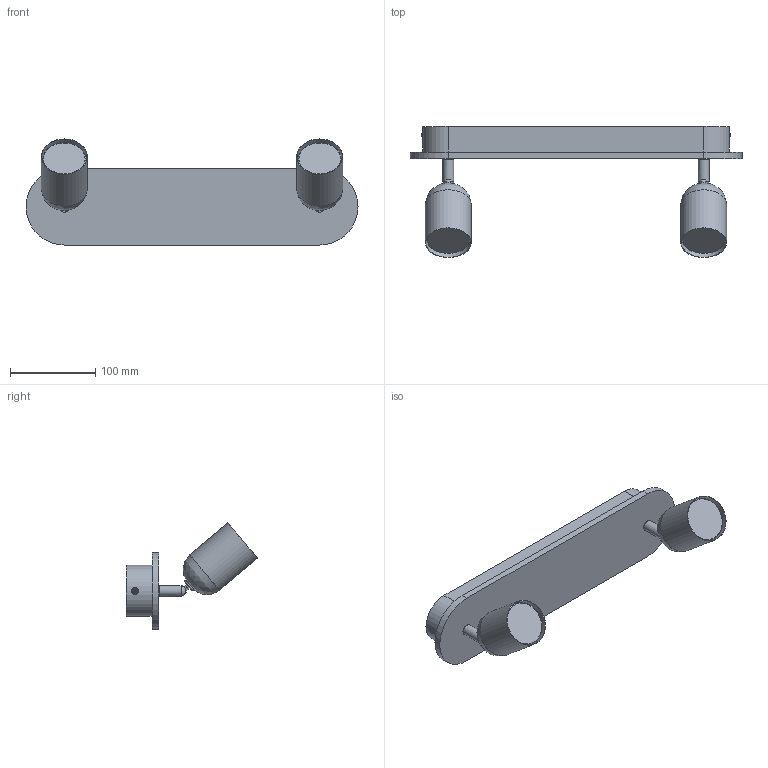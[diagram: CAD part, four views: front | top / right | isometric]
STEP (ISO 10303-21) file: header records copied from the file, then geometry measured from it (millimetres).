
FILE_DESCRIPTION(/* description */ (''),/* implementation_level */ '2;1');
FILE_NAME(/* name */ 'C:/Users/kubaw/OneDrive/Pulpit/3D/JAKUB_WIECZORKOWSKI_MAJ_PACZKA/OK/3295_TOP WOOD.step',/* time_stamp */ '2021-06-19T10:40:21+02:00',/* author */ (''),/* organization */ (''),/* preprocessor_version */ 'ST-DEVELOPER v18.1',/* originating_system */ 'Autodesk Translation Framework v10.9.0.1377',/* authorisation */ '');
FILE_SCHEMA (('AUTOMOTIVE_DESIGN { 1 0 10303 214 3 1 1 }'));
Length unit declared in the file: millimetre
Products named in the file (4): 3295_TOP WOOD; KLOSZ_TOP WOOD_B; ŚRUBA2_TOP WOOD; ŚRUBA2_TOP WOOD v2(Mirror)
Assembly tree (4 placements, depth 2):
  3295_TOP WOOD
    KLOSZ_TOP WOOD_B  x2
    ŚRUBA2_TOP WOOD
    ŚRUBA2_TOP WOOD v2(Mirror)
Bounding box: 390 x 153.9 x 124.72 mm (x, y, z)
Volume: 972270.8 mm3; surface area: 212222.6 mm2
Topology: 20 solids, 20 shells, 134 faces, 286 edges, 192 vertices
Faces by surface type: plane 88, cylinder 26, bspline 12, torus 4, sphere 2, cone 2
Full cylindrical faces by diameter (mm): 8 x2, 12.6 x2, 12.87 x2, 53.1 x2, 54 x2
Entity records: 3036 total; most frequent: CARTESIAN_POINT 808, DIRECTION 439, ORIENTED_EDGE 414, EDGE_CURVE 207, AXIS2_PLACEMENT_3D 164, VERTEX_POINT 140, LINE 111, VECTOR 111
